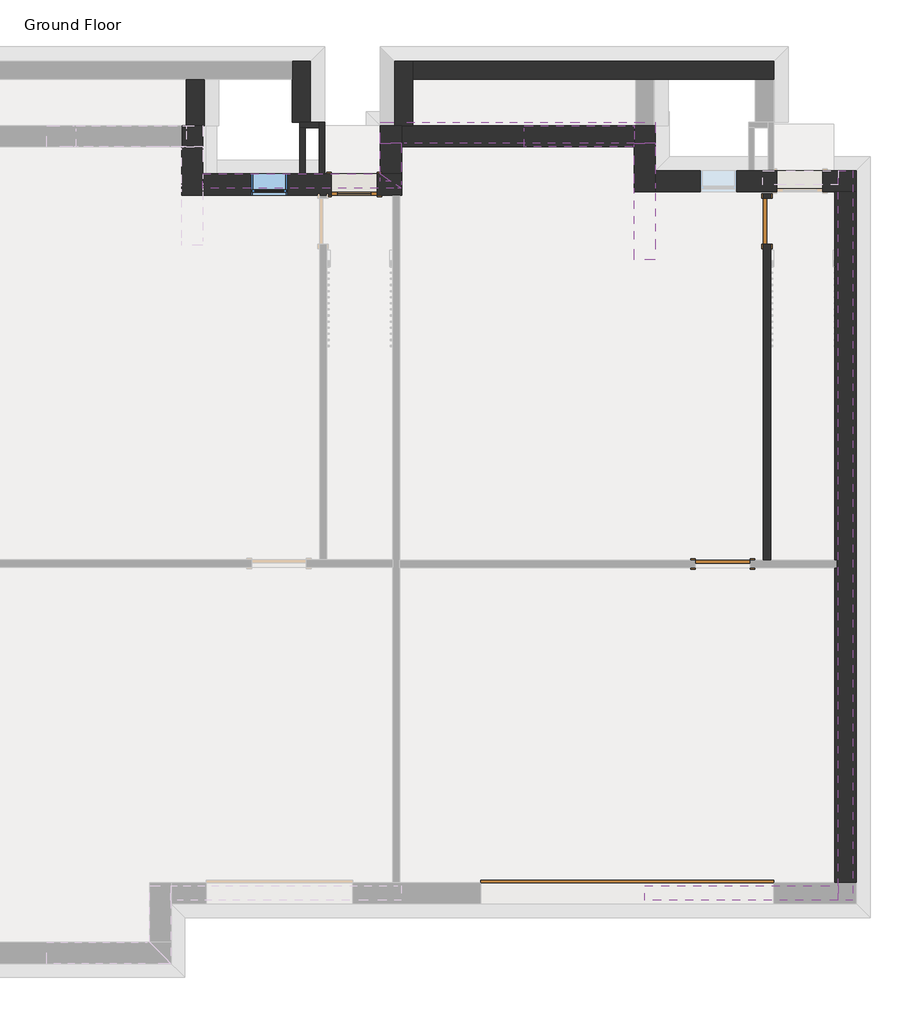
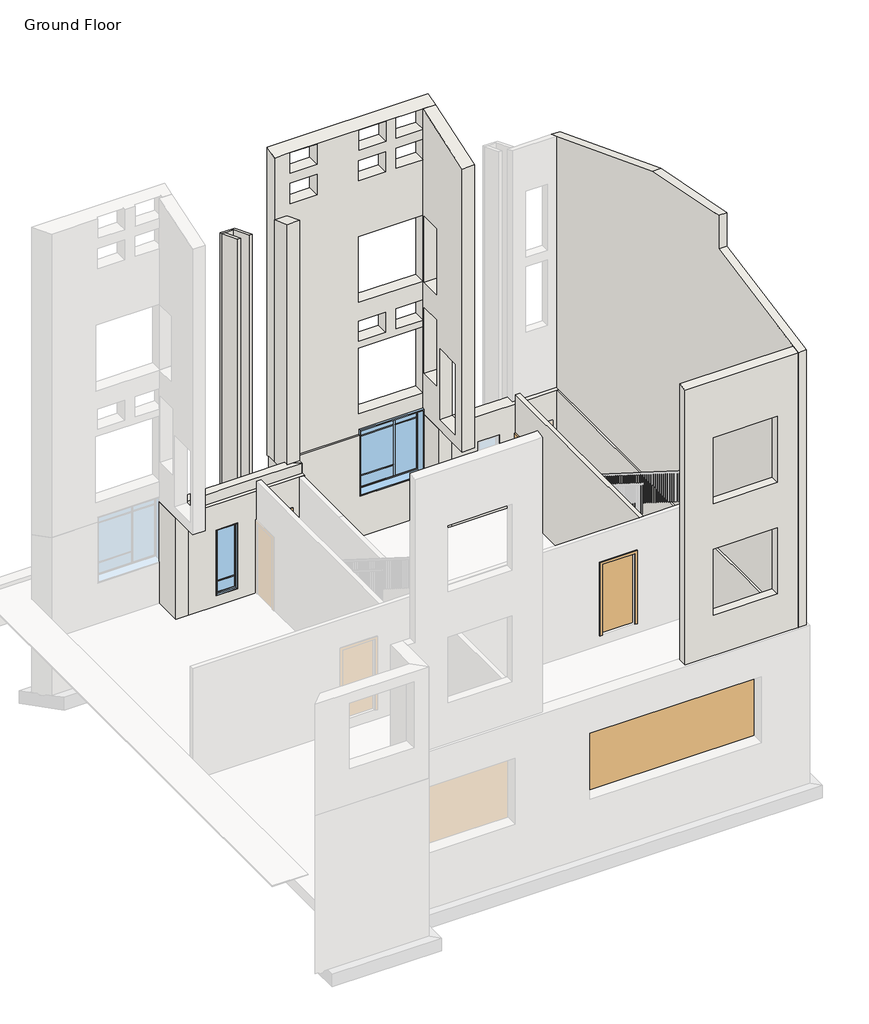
# One storey, part 2 of 3: 21 walls, 4 doors, 2 windows.
"""IFC4 building model written with IfcOpenShell, lengths in millimetres."""

from ifc_helpers import new_model, si_unit, frame, origin, place, context, project, spatial, polyline, outline, extrude, faceted_brep, transform, mapped, element, save
from components import door_2ca4f690, door_f8acb57e, door_88503111, door_c5ae8584, condo_apartment_window2_condo_apartment_window2_ac6c58d4, condo_apartment_window3_condo_apartment_window3_d8555c09

model = new_model("IFC4")

# Units and contexts
model_context = context("Model", 3, world=origin())
ifc_project = project(units=[si_unit("LENGTHUNIT", "METRE", prefix="MILLI")], contexts=[model_context])

# Site, building, storey
site = spatial("IfcSite", under=ifc_project)
building = spatial("IfcBuilding", under=site)
storey = spatial("IfcBuildingStorey", under=building, Name="Ground Floor", Elevation=-3352.8)

# Doors
placement = place(None, origin())
door_shape = door_2ca4f690(model_context)
element("IfcDoor", 1, ObjectType="Overhead-Sectional : 16' X 6'-6\"", at=placement, inside=storey, context=model_context, shape_type="MappedRepresentation", body=[
    mapped(door_shape, transform((31.9002661, 46241.9255538, -3352.8), x_axis=(1.0, 0.0, 0.0), y_axis=(0.0, 1.0, 0.0), z_axis=(0.0, 0.0, 1.0))),
])
door_2_shape = door_f8acb57e(model_context)
element("IfcDoor", 2, ObjectType="Single-Flush : 30\" x 84\"", at=placement, inside=storey, context=model_context, shape_type="MappedRepresentation", body=[
    mapped(door_2_shape, transform((2361.5355231, 57427.3989967, -3352.8), x_axis=(0.0, 1.0, 0.0), y_axis=(-1.0, 0.0, 0.0), z_axis=(0.0, 0.0, 1.0))),
])
door_3_shape = door_88503111(model_context)
element("IfcDoor", 3, ObjectType="Single-Flush : 36\" x 84\"", at=placement, inside=storey, context=model_context, shape_type="MappedRepresentation", body=[
    mapped(door_3_shape, transform((1625.2985514, 51725.3583856, -3046.4125), x_axis=(1.0, 0.0, 0.0), y_axis=(0.0, 1.0, 0.0), z_axis=(0.0, 0.0, 1.0))),
])
door_4_shape = door_c5ae8584(model_context)
element("IfcDoor", 4, ObjectType="Single-Glass 1 : 30\" x 84\"", at=placement, inside=storey, context=model_context, shape_type="MappedRepresentation", body=[
    mapped(door_4_shape, transform((-4512.7497339, 58036.9989967, -3352.8), x_axis=(1.0, 0.0, 0.0), y_axis=(0.0, 1.0, 0.0), z_axis=(0.0, 0.0, 1.0))),
])

# Walls
element("IfcWall", 5, ObjectType="Exterior - Brick - Gray", at=placement, inside=storey, context=model_context, shape_type="Brep", body=[
    faceted_brep([(-5004.3411158, 58214.7989967, -3352.8), (-5004.3411158, 59074.111508, -3352.8), (-5004.3411158, 59074.111508, 6846.4925469), (-5004.3411158, 58214.7989967, 7177.3038799), (-5093.2411158, 58214.7989967, -3352.8), (-5093.2411158, 58214.7989967, 7177.3038799), (-5093.2411158, 58985.211508, 6880.7165657), (-5093.2411158, 59074.111508, 6846.4925469), (-5093.2411158, 59074.111508, -3352.8), (-5093.2411158, 58985.211508, -3352.8)], [[[0, 1, 2, 3]], [[4, 5, 6, 7, 8, 9]], [[1, 0, 4, 9, 8]], [[2, 1, 8, 7]], [[0, 3, 5, 4]], [[3, 2, 7, 6, 5]]]),
])
element("IfcWall", 6, ObjectType="Exterior - Brick - Gray", at=placement, inside=storey, context=model_context, shape_type="Brep", body=[
    faceted_brep([(-5093.2411158, 59074.111508, -3352.8), (-5417.0911158, 59074.111508, -3352.8), (-5417.0911158, 59074.111508, 6846.4925469), (-5093.2411158, 59074.111508, 6846.4925469), (-5093.2411158, 58985.211508, -3352.8), (-5093.2411158, 58985.211508, 6880.7165657), (-5328.1911158, 58985.211508, 6880.7165657), (-5417.0911158, 58985.211508, 6880.7165657), (-5417.0911158, 58985.211508, -3352.8), (-5328.1911158, 58985.211508, -3352.8)], [[[0, 1, 2, 3]], [[4, 5, 6, 7, 8, 9]], [[1, 0, 4, 9, 8]], [[2, 1, 8, 7]], [[0, 3, 5, 4]], [[3, 2, 7, 6, 5]]]),
])
element("IfcWall", 7, ObjectType="Exterior - Brick - Gray", at=placement, inside=storey, context=model_context, shape_type="SweptSolid", body=[
    extrude(outline(polyline([(58985.211508, -3352.8), (58214.7989967, -3352.8), (58214.7989967, 7177.3038799), (58985.211508, 6880.7165657), (58985.211508, -3352.8)])), frame((-5417.0911158, 0.0, 0.0), z_axis=(1.0, 0.0, 0.0), x_axis=(0.0, 1.0, 0.0)), (0.0, 0.0, 1.0), 88.9),
])
element("IfcWall", 8, ObjectType="Exterior - Brick on Mtl. Stud", at=placement, inside=storey, context=model_context, shape_type="Brep", body=[
    faceted_brep([(-4079.3622339, 58723.449008, 8841.1995281), (-4079.3622339, 58723.449008, 7308.0940019), (-4079.3622339, 58723.449008, 6981.4878222), (-4079.3622339, 58723.449008, -304.8), (-3726.9372339, 58723.449008, -304.8), (-1681.9747339, 58723.449008, -304.8), (-1681.9747339, 58723.449008, -152.4), (146.8252661, 58723.449008, -152.4), (146.8252661, 58723.449008, -304.8), (499.2502661, 58723.449008, -304.8), (499.2502661, 58723.449008, 8841.1995281), (146.8252661, 58723.449008, 8841.1995281), (-3726.9372339, 58723.449008, 8841.1995281), (148.0377661, 58723.449008, 2286.0), (148.0377661, 58723.449008, 304.8), (-1680.7622339, 58723.449008, 304.8), (-1680.7622339, 58723.449008, 2286.0), (-918.7622339, 58723.449008, 7924.8), (-918.7622339, 58723.449008, 7315.2), (-1680.7622339, 58723.449008, 7315.2), (-1680.7622339, 58723.449008, 7924.8), (148.0377661, 58723.449008, 8839.2), (148.0377661, 58723.449008, 8229.6), (-613.9622339, 58723.449008, 8229.6), (-613.9622339, 58723.449008, 8839.2), (-2872.5622339, 58723.449008, 8839.2), (-2872.5622339, 58723.449008, 8229.6), (-3634.5622339, 58723.449008, 8229.6), (-3634.5622339, 58723.449008, 8839.2), (-2872.5622339, 58723.449008, 7924.8), (-2872.5622339, 58723.449008, 7315.2), (-3634.5622339, 58723.449008, 7315.2), (-3634.5622339, 58723.449008, 7924.8), (148.0377661, 58723.449008, 7924.8), (148.0377661, 58723.449008, 7315.2), (-613.9622339, 58723.449008, 7315.2), (-613.9622339, 58723.449008, 7924.8), (-904.3622339, 58723.449008, 8839.2), (-904.3622339, 58723.449008, 8229.6), (-1666.3622339, 58723.449008, 8229.6), (-1666.3622339, 58723.449008, 8839.2), (148.0377661, 58723.449008, 5638.8), (148.0377661, 58723.449008, 3657.6), (-1680.7622339, 58723.449008, 3657.6), (-1680.7622339, 58723.449008, 5638.8), (148.0377661, 58723.449008, 3098.8), (148.0377661, 58723.449008, 2489.2), (-613.9622339, 58723.449008, 2489.2), (-613.9622339, 58723.449008, 3098.8), (-918.7622339, 58723.449008, 3098.8), (-918.7622339, 58723.449008, 2489.2), (-1680.7622339, 58723.449008, 2489.2), (-1680.7622339, 58723.449008, 3098.8), (-4079.3622339, 59075.874008, -304.8), (-4079.3622339, 59075.874008, 8957.0833207), (499.2502661, 59075.874008, 8957.0833207), (499.2502661, 59075.874008, -304.8), (146.8252661, 59075.874008, -304.8), (146.8252661, 59075.874008, -152.4), (-1681.9747339, 59075.874008, -152.4), (-1681.9747339, 59075.874008, -304.8), (148.0377661, 59075.874008, 304.8), (148.0377661, 59075.874008, 2286.0), (-1680.7622339, 59075.874008, 2286.0), (-1680.7622339, 59075.874008, 304.8), (-918.7622339, 59075.874008, 7315.2), (-918.7622339, 59075.874008, 7924.8), (-1680.7622339, 59075.874008, 7924.8), (-1680.7622339, 59075.874008, 7315.2), (148.0377661, 59075.874008, 8229.6), (148.0377661, 59075.874008, 8839.2), (-613.9622339, 59075.874008, 8839.2), (-613.9622339, 59075.874008, 8229.6), (-2872.5622339, 59075.874008, 8229.6), (-2872.5622339, 59075.874008, 8839.2), (-3634.5622339, 59075.874008, 8839.2), (-3634.5622339, 59075.874008, 8229.6), (-2872.5622339, 59075.874008, 7315.2), (-2872.5622339, 59075.874008, 7924.8), (-3634.5622339, 59075.874008, 7924.8), (-3634.5622339, 59075.874008, 7315.2), (148.0377661, 59075.874008, 7315.2), (148.0377661, 59075.874008, 7924.8), (-613.9622339, 59075.874008, 7924.8), (-613.9622339, 59075.874008, 7315.2), (-904.3622339, 59075.874008, 8229.6), (-904.3622339, 59075.874008, 8839.2), (-1666.3622339, 59075.874008, 8839.2), (-1666.3622339, 59075.874008, 8229.6), (148.0377661, 59075.874008, 3657.6), (148.0377661, 59075.874008, 5638.8), (-1680.7622339, 59075.874008, 5638.8), (-1680.7622339, 59075.874008, 3657.6), (148.0377661, 59075.874008, 2489.2), (148.0377661, 59075.874008, 3098.8), (-613.9622339, 59075.874008, 3098.8), (-613.9622339, 59075.874008, 2489.2), (-918.7622339, 59075.874008, 2489.2), (-918.7622339, 59075.874008, 3098.8), (-1680.7622339, 59075.874008, 3098.8), (-1680.7622339, 59075.874008, 2489.2)], [[[0, 1, 2, 3, 4, 5, 6, 7, 8, 9, 10, 11, 12], [13, 14, 15, 16], [17, 18, 19, 20], [21, 22, 23, 24], [25, 26, 27, 28], [29, 30, 31, 32], [33, 34, 35, 36], [37, 38, 39, 40], [41, 42, 43, 44], [45, 46, 47, 48], [49, 50, 51, 52]], [[53, 54, 55, 56, 57, 58, 59, 60], [61, 62, 63, 64], [65, 66, 67, 68], [69, 70, 71, 72], [73, 74, 75, 76], [77, 78, 79, 80], [81, 82, 83, 84], [85, 86, 87, 88], [89, 90, 91, 92], [93, 94, 95, 96], [97, 98, 99, 100]], [[3, 53, 60, 5, 4]], [[56, 9, 8, 57]], [[3, 2, 1, 0, 54, 53]], [[10, 9, 56, 55]], [[0, 12, 11, 10, 55, 54]], [[13, 62, 61, 14]], [[14, 61, 64, 15]], [[15, 64, 63, 16]], [[62, 13, 16, 63]], [[18, 17, 66, 65]], [[19, 18, 65, 68]], [[20, 19, 68, 67]], [[17, 20, 67, 66]], [[21, 70, 69, 22]], [[22, 69, 72, 23]], [[23, 72, 71, 24]], [[70, 21, 24, 71]], [[25, 74, 73, 26]], [[26, 73, 76, 27]], [[27, 76, 75, 28]], [[74, 25, 28, 75]], [[30, 29, 78, 77]], [[31, 30, 77, 80]], [[32, 31, 80, 79]], [[29, 32, 79, 78]], [[33, 82, 81, 34]], [[34, 81, 84, 35]], [[35, 84, 83, 36]], [[82, 33, 36, 83]], [[37, 86, 85, 38]], [[38, 85, 88, 39]], [[39, 88, 87, 40]], [[86, 37, 40, 87]], [[41, 90, 89, 42]], [[42, 89, 92, 43]], [[43, 92, 91, 44]], [[90, 41, 44, 91]], [[45, 94, 93, 46]], [[46, 93, 96, 47]], [[47, 96, 95, 48]], [[94, 45, 48, 95]], [[50, 49, 98, 97]], [[51, 50, 97, 100]], [[52, 51, 100, 99]], [[49, 52, 99, 98]], [[7, 58, 57, 8]], [[59, 6, 5, 60]], [[58, 7, 6, 59]]]),
])
element("IfcWall", 9, ObjectType="Exterior - Brick on Mtl. Stud", at=placement, inside=storey, context=model_context, shape_type="Brep", body=[
    faceted_brep([(-4079.3622339, 58723.449008, -304.8), (-4079.3622339, 58214.7989967, -304.8), (-4079.3622339, 58214.7989967, 0.0), (-4079.3622339, 58094.1489967, 0.0), (-4079.3622339, 58094.1489967, 7223.7507625), (-4079.3622339, 58214.7989967, 7177.3038799), (-4079.3622339, 58723.449008, 6981.4878222), (-3726.9372339, 58723.449008, -304.8), (-3726.9372339, 58723.449008, 6981.4878222), (-3726.9372339, 58094.1489967, 7223.7507625), (-3726.9372339, 58094.1489967, 0.0), (-3726.9372339, 57973.4989967, 0.0), (-3726.9372339, 57973.4989967, -304.8), (-3903.1497339, 58094.1489967, 0.0), (-3850.7622339, 58094.1489967, 0.0), (-3850.7622339, 58094.1489967, 7223.7507625)], [[[0, 1, 2, 3, 4, 5, 6]], [[7, 8, 9, 10, 11, 12]], [[1, 0, 7, 12]], [[4, 3, 13, 14, 10, 9, 15]], [[10, 14, 13, 11]], [[2, 1, 12, 11, 13]], [[13, 3, 2]], [[0, 6, 8, 7]], [[6, 5, 4, 15, 9, 8]]]),
])
element("IfcWall", 10, ObjectType="Exterior - Brick on Mtl. Stud", at=placement, inside=storey, context=model_context, shape_type="Brep", body=[
    faceted_brep([(146.8252661, 58723.449008, -304.8), (146.8252661, 56788.286508, -304.8), (146.8252661, 56788.286508, 8204.8826668), (146.8252661, 58723.449008, 8841.1995281), (146.8252661, 58723.449008, -152.4), (146.8252661, 58671.061508, 2895.6), (146.8252661, 58061.461508, 2895.6), (146.8252661, 58061.461508, 914.4), (146.8252661, 58671.061508, 914.4), (146.8252661, 57893.186508, 0.0), (146.8252661, 57893.186508, 2133.6), (146.8252661, 57131.186508, 2133.6), (146.8252661, 57131.186508, 0.0), (146.8252661, 58671.061508, 5638.8), (146.8252661, 58061.461508, 5638.8), (146.8252661, 58061.461508, 3657.6), (146.8252661, 58671.061508, 3657.6), (499.2502661, 58723.449008, -304.8), (499.2502661, 58723.449008, 8841.1995281), (499.2502661, 56788.286508, 8204.8826668), (499.2502661, 56788.286508, 7726.4713734), (499.2502661, 56788.286508, 0.0), (499.2502661, 56788.286508, -304.8), (499.2502661, 58671.061508, 2895.6), (499.2502661, 58671.061508, 914.4), (499.2502661, 58061.461508, 914.4), (499.2502661, 58061.461508, 2895.6), (499.2502661, 57893.186508, 0.0), (499.2502661, 57131.186508, 0.0), (499.2502661, 57131.186508, 2133.6), (499.2502661, 57893.186508, 2133.6), (499.2502661, 58671.061508, 5638.8), (499.2502661, 58671.061508, 3657.6), (499.2502661, 58061.461508, 3657.6), (499.2502661, 58061.461508, 5638.8)], [[[0, 1, 2, 3, 4], [5, 6, 7, 8], [9, 10, 11, 12], [13, 14, 15, 16]], [[17, 18, 19, 20, 21, 22], [23, 24, 25, 26], [27, 28, 29, 30], [31, 32, 33, 34]], [[1, 0, 17, 22]], [[2, 1, 22, 21, 20, 19]], [[0, 4, 3, 18, 17]], [[3, 2, 19, 18]], [[24, 23, 5, 8]], [[25, 24, 8, 7]], [[26, 25, 7, 6]], [[23, 26, 6, 5]], [[28, 27, 9, 12]], [[29, 28, 12, 11]], [[30, 29, 11, 10]], [[27, 30, 10, 9]], [[32, 31, 13, 16]], [[33, 32, 16, 15]], [[34, 33, 15, 14]], [[31, 34, 14, 13]]]),
])
element("IfcWall", 11, ObjectType="Exterior - Stucco", at=placement, inside=storey, context=model_context, shape_type="Brep", body=[
    faceted_brep([(-4079.3622339, 58214.7989967, -304.8), (-7033.8372339, 58214.7989967, -304.8), (-7033.8372339, 58214.7989967, 0.0), (-5175.7911158, 58214.7989967, 0.0), (-4079.3622339, 58214.7989967, 0.0), (-3726.9372339, 57973.4989967, -304.8), (-3726.9372339, 57973.4989967, 0.0), (-3850.7622339, 57973.4989967, 0.0), (-5175.7911158, 57973.4989967, 0.0), (-7033.8372339, 57973.4989967, 0.0), (-7033.8372339, 57973.4989967, -304.8)], [[[0, 1, 2, 3, 4]], [[5, 6, 7, 8, 9, 10]], [[1, 0, 5, 10]], [[4, 3, 2, 9, 8, 7, 6]], [[0, 4, 6, 5]], [[2, 1, 10, 9]]]),
])
element("IfcWall", 12, ObjectType="Exterior - Stucco", at=placement, inside=storey, context=model_context, shape_type="Brep", body=[
    faceted_brep([(3547.3980231, 58271.9489967, -304.8), (3547.3980231, 58030.6489967, -304.8), (3547.3980231, 46362.5755538, -304.8), (3547.3980231, 46121.2755538, -304.8), (3547.3980231, 46121.2755538, 7960.2821444), (3547.3980231, 46362.5755538, 8006.2042381), (3547.3980231, 50037.586508, 8705.6), (3547.3980231, 50037.586508, 9713.3498366), (3547.3980231, 50278.886508, 9665.7212145), (3547.3980231, 53299.7913201, 9069.4446552), (3547.3980231, 58030.6489967, 7248.1964902), (3547.3980231, 58271.9489967, 7155.302725), (3788.6980231, 58271.9489967, -304.8), (3788.6980231, 58271.9489967, 7155.302725), (3788.6980231, 53299.7913201, 9069.4446552), (3788.6980231, 50037.586508, 9713.3498366), (3788.6980231, 50037.586508, 8705.6), (3788.6980231, 46121.2755538, 7960.2821444), (3788.6980231, 46121.2755538, -304.8)], [[[0, 1, 2, 3, 4, 5, 6, 7, 8, 9, 10, 11]], [[12, 13, 14, 15, 16, 17, 18]], [[3, 2, 1, 0, 12, 18]], [[4, 3, 18, 17]], [[0, 11, 13, 12]], [[15, 7, 6, 16]], [[6, 5, 4, 17, 16]], [[11, 10, 9, 14, 13]], [[9, 8, 7, 15, 14]]]),
])
element("IfcWall", 13, ObjectType="Exterior - Stucco", at=placement, inside=storey, context=model_context, shape_type="Brep", body=[
    faceted_brep([(3547.3980231, 46362.5755538, -304.8), (327.0002661, 46362.5755538, -304.8), (327.0002661, 46362.5755538, 8006.2042381), (3547.3980231, 46362.5755538, 8006.2042381), (1130.1480231, 46362.5755538, 2895.6), (1130.1480231, 46362.5755538, 914.4), (2958.9480231, 46362.5755538, 914.4), (2958.9480231, 46362.5755538, 2895.6), (1130.1480231, 46362.5755538, 6248.4), (1130.1480231, 46362.5755538, 4267.2), (2958.9480231, 46362.5755538, 4267.2), (2958.9480231, 46362.5755538, 6248.4), (327.0002661, 46121.2755538, -304.8), (3547.3980231, 46121.2755538, -304.8), (3547.3980231, 46121.2755538, 7960.2821444), (327.0002661, 46121.2755538, 7960.2821444), (1130.1480231, 46121.2755538, 914.4), (1130.1480231, 46121.2755538, 2895.6), (2958.9480231, 46121.2755538, 2895.6), (2958.9480231, 46121.2755538, 914.4), (1130.1480231, 46121.2755538, 4267.2), (1130.1480231, 46121.2755538, 6248.4), (2958.9480231, 46121.2755538, 6248.4), (2958.9480231, 46121.2755538, 4267.2)], [[[0, 1, 2, 3], [4, 5, 6, 7], [8, 9, 10, 11]], [[12, 13, 14, 15], [16, 17, 18, 19], [20, 21, 22, 23]], [[1, 0, 13, 12]], [[0, 3, 14, 13]], [[2, 1, 12, 15]], [[3, 2, 15, 14]], [[4, 17, 16, 5]], [[5, 16, 19, 6]], [[6, 19, 18, 7]], [[17, 4, 7, 18]], [[8, 21, 20, 9]], [[9, 20, 23, 10]], [[10, 23, 22, 11]], [[21, 8, 11, 22]]]),
])
element("IfcWall", 14, ObjectType="Foundation - 12\" Concrete", at=placement, inside=storey, context=model_context, shape_type="SweptSolid", body=[
    extrude(outline(polyline([(-304.8, 3845.8480231), (-304.8, 3490.2480231), (-5054.6, 3490.2480231), (-5054.6, 3591.8480231), (-5095.0111525, 3632.2591756), (-5095.0111525, 3703.8368706), (-5054.6, 3744.2480231), (-5054.6, 3845.8480231), (-304.8, 3845.8480231)])), frame((0.0, 46419.7255538, 0.0), z_axis=(0.0, 1.0, 0.0), x_axis=(0.0, 0.0, 1.0)), (0.0, 0.0, 1.0), 11496.6234429),
])
element("IfcWall", 15, ObjectType="Foundation - 12\" Concrete", at=placement, inside=storey, context=model_context, shape_type="Brep", body=[
    faceted_brep([(-7387.8497339, 59018.349008, -304.8), (-7387.8497339, 59019.936508, -304.8), (-7387.8497339, 59019.936508, -2133.6), (-7387.8497339, 59019.936508, -5054.6), (-7387.8497339, 58918.336508, -5054.6), (-7387.8497339, 58877.9253554, -5095.0111525), (-7387.8497339, 58806.3476605, -5095.0111525), (-7387.8497339, 58765.936508, -5054.6), (-7387.8497339, 58664.336508, -5054.6), (-7387.8497339, 58113.1989967, -5054.6), (-7387.8497339, 58072.7878442, -5095.0111525), (-7387.8497339, 58036.9989967, -5095.0111525), (-7387.8497339, 58001.2101493, -5095.0111525), (-7387.8497339, 57960.7989967, -5054.6), (-7387.8497339, 57859.1989967, -5054.6), (-7387.8497339, 57859.1989967, -304.8), (-7387.8497339, 58665.924008, -304.8), (-7387.8497339, 58665.924008, -2133.6), (-7387.8497339, 59018.349008, -2133.6), (-7032.2497339, 59019.936508, -304.8), (-7032.2497339, 58214.7989967, -304.8), (-7032.2497339, 57859.1989967, -304.8), (-7032.2497339, 57859.1989967, -5054.6), (-7032.2497339, 57960.7989967, -5054.6), (-7032.2497339, 58001.2101493, -5095.0111525), (-7032.2497339, 58036.9989967, -5095.0111525), (-7032.2497339, 58072.7878442, -5095.0111525), (-7032.2497339, 58113.1989967, -5054.6), (-7032.2497339, 58214.7989967, -5054.6), (-7032.2497339, 59019.936508, -5054.6), (-7311.0997339, 59018.349008, -304.8), (-7311.0997339, 58665.924008, -304.8), (-7311.0997339, 59018.349008, -2133.6), (-7311.0997339, 58665.924008, -2133.6), (-7286.2497339, 58765.936508, -5054.6), (-7286.2497339, 58443.3989967, -5054.6), (-7133.8497339, 58443.3989967, -5054.6), (-7133.8497339, 58918.336508, -5054.6), (-7245.8385813, 58806.3476605, -5095.0111525), (-7174.2608864, 58877.9253554, -5095.0111525), (-7174.2608864, 58443.3989967, -5095.0111525), (-7245.8385813, 58443.3989967, -5095.0111525)], [[[0, 1, 2, 3, 4, 5, 6, 7, 8, 9, 10, 11, 12, 13, 14, 15, 16, 17, 18]], [[19, 20, 21, 22, 23, 24, 25, 26, 27, 28, 29]], [[21, 20, 19, 1, 0, 30, 31, 16, 15]], [[1, 19, 29, 3, 2]], [[21, 15, 14, 22]], [[18, 32, 30, 0]], [[31, 33, 17, 16]], [[32, 33, 31, 30]], [[33, 32, 18, 17]], [[7, 34, 35, 36, 37, 4, 3, 29, 28, 27, 9, 8]], [[38, 34, 7, 6]], [[5, 39, 40, 41, 38, 6]], [[37, 39, 5, 4]], [[34, 38, 41, 35]], [[39, 37, 36, 40]], [[13, 23, 22, 14]], [[23, 13, 12, 24]], [[24, 12, 11, 25]], [[25, 11, 10, 26]], [[26, 10, 9, 27]], [[36, 35, 41, 40]]]),
])
element("IfcWall", 16, ObjectType="Foundation - 12\" Concrete", at=placement, inside=storey, context=model_context, shape_type="Brep", body=[
    faceted_brep([(-3725.3497339, 59019.936508, -304.8), (-3725.3497339, 58664.336508, -304.8), (-3725.3497339, 58214.7989967, -304.8), (-3725.3497339, 58214.7989967, -5054.6), (-3725.3497339, 58664.336508, -5054.6), (-3725.3497339, 58765.936508, -5054.6), (-3725.3497339, 58806.3476605, -5095.0111525), (-3725.3497339, 58877.9253554, -5095.0111525), (-3725.3497339, 58918.336508, -5054.6), (-3725.3497339, 59019.936508, -5054.6), (-4080.9497339, 58214.7989967, -304.8), (-4080.9497339, 59019.936508, -304.8), (-4080.9497339, 59019.936508, -5054.6), (-4080.9497339, 58214.7989967, -5054.6), (-3979.3497339, 58214.7989967, -5054.6), (-3938.9385813, 58214.7989967, -5095.0111525), (-3867.3608864, 58214.7989967, -5095.0111525), (-3826.9497339, 58214.7989967, -5054.6), (-3826.9497339, 58765.936508, -5054.6), (-3938.9385813, 58877.9253554, -5095.0111525), (-3867.3608864, 58806.3476605, -5095.0111525), (-3979.3497339, 58918.336508, -5054.6)], [[[0, 1, 2, 3, 4, 5, 6, 7, 8, 9]], [[10, 11, 12, 13]], [[2, 1, 0, 11, 10]], [[11, 0, 9, 12]], [[2, 10, 13, 14, 15, 16, 17, 3]], [[17, 18, 5, 4, 3]], [[15, 19, 7, 6, 20, 16]], [[8, 21, 14, 13, 12, 9]], [[20, 18, 17, 16]], [[21, 19, 15, 14]], [[18, 20, 6, 5]], [[19, 21, 8, 7]]]),
])
element("IfcWall", 17, ObjectType="Foundation - 12\" Concrete", at=placement, inside=storey, context=model_context, shape_type="Brep", body=[
    faceted_brep([(-1681.9747339, 58664.336508, -304.8), (-3725.3497339, 58664.336508, -304.8), (-3725.3497339, 58664.336508, -5054.6), (145.2377661, 58664.336508, -5054.6), (145.2377661, 58664.336508, -2133.6), (-1681.9747339, 58664.336508, -2133.6), (-3725.3497339, 59019.936508, -304.8), (-1681.9747339, 59019.936508, -304.8), (-1681.9747339, 59019.936508, -2133.6), (145.2377661, 59019.936508, -2133.6), (145.2377661, 59019.936508, -5054.6), (-3725.3497339, 59019.936508, -5054.6), (-3725.3497339, 58918.336508, -5054.6), (-3725.3497339, 58877.9253554, -5095.0111525), (-3725.3497339, 58806.3476605, -5095.0111525), (-3725.3497339, 58765.936508, -5054.6), (145.2377661, 58765.936508, -5054.6), (145.2377661, 58806.3476605, -5095.0111525), (145.2377661, 58877.9253554, -5095.0111525), (145.2377661, 58918.336508, -5054.6)], [[[0, 1, 2, 3, 4, 5]], [[6, 7, 8, 9, 10, 11]], [[6, 1, 0, 7]], [[1, 6, 11, 12, 13, 14, 15, 2]], [[9, 4, 3, 16, 17, 18, 19, 10]], [[8, 5, 4, 9]], [[5, 8, 7, 0]], [[15, 16, 3, 2]], [[13, 18, 17, 14]], [[19, 12, 11, 10]], [[16, 15, 14, 17]], [[18, 13, 12, 19]]]),
])
element("IfcWall", 18, ObjectType="Foundation - 12\" Concrete", at=placement, inside=storey, context=model_context, shape_type="Brep", body=[
    faceted_brep([(145.2377661, 57916.3489967, -304.8), (145.2377661, 58664.336508, -304.8), (145.2377661, 58664.336508, -2133.6), (145.2377661, 59019.936508, -2133.6), (145.2377661, 59019.936508, -5054.6), (145.2377661, 58918.336508, -5054.6), (145.2377661, 58877.9253554, -5095.0111525), (145.2377661, 58806.3476605, -5095.0111525), (145.2377661, 58765.936508, -5054.6), (145.2377661, 58664.336508, -5054.6), (145.2377661, 57916.3489967, -5054.6), (500.8377661, 59019.936508, -304.8), (500.8377661, 58271.9489967, -304.8), (500.8377661, 57916.3489967, -304.8), (500.8377661, 57916.3489967, -5054.6), (500.8377661, 58017.9489967, -5054.6), (500.8377661, 58058.3601493, -5095.0111525), (500.8377661, 58129.9378442, -5095.0111525), (500.8377661, 58170.3489967, -5054.6), (500.8377661, 58271.9489967, -5054.6), (500.8377661, 59019.936508, -5054.6), (146.8252661, 59019.936508, -304.8), (146.8252661, 58664.336508, -304.8), (146.8252661, 59019.936508, -2133.6), (146.8252661, 58664.336508, -2133.6), (246.8377661, 58765.936508, -5054.6), (246.8377661, 58017.9489967, -5054.6), (287.2489187, 58806.3476605, -5095.0111525), (287.2489187, 58058.3601493, -5095.0111525), (358.8266136, 58877.9253554, -5095.0111525), (358.8266136, 58129.9378442, -5095.0111525), (399.2377661, 58918.336508, -5054.6), (399.2377661, 58170.3489967, -5054.6)], [[[0, 1, 2, 3, 4, 5, 6, 7, 8, 9, 10]], [[11, 12, 13, 14, 15, 16, 17, 18, 19, 20]], [[13, 12, 11, 21, 22, 1, 0]], [[21, 11, 20, 4, 3, 23]], [[13, 0, 10, 14]], [[22, 24, 2, 1]], [[23, 24, 22, 21]], [[24, 23, 3, 2]], [[25, 26, 15, 14, 10, 9, 8]], [[27, 25, 8, 7]], [[28, 27, 7, 6, 29, 30, 17, 16]], [[31, 29, 6, 5]], [[32, 31, 5, 4, 20, 19, 18]], [[26, 25, 27, 28]], [[30, 29, 31, 32]], [[26, 28, 16, 15]], [[30, 32, 18, 17]]]),
])
element("IfcWall", 19, ObjectType="Foundation - 12\" Concrete", at=placement, inside=storey, context=model_context, shape_type="Brep", body=[
    faceted_brep([(3845.8480231, 57916.3489967, -304.8), (3490.2480231, 57916.3489967, -304.8), (500.8377661, 57916.3489967, -304.8), (500.8377661, 57916.3489967, -5054.6), (3490.2480231, 57916.3489967, -5054.6), (3591.8480231, 57916.3489967, -5054.6), (3632.2591756, 57916.3489967, -5095.0111525), (3703.8368706, 57916.3489967, -5095.0111525), (3744.2480231, 57916.3489967, -5054.6), (3845.8480231, 57916.3489967, -5054.6), (3287.0480231, 57916.3489967, -3352.8), (2525.0480231, 57916.3489967, -3352.8), (2525.0480231, 57916.3489967, -1219.2), (3287.0480231, 57916.3489967, -1219.2), (1856.3088842, 57916.3489967, -3048.0), (1246.7088842, 57916.3489967, -3048.0), (1246.7088842, 57916.3489967, -1066.8), (1856.3088842, 57916.3489967, -1066.8), (500.8377661, 58271.9489967, -304.8), (3845.8480231, 58271.9489967, -304.8), (3845.8480231, 58271.9489967, -5054.6), (500.8377661, 58271.9489967, -5054.6), (2525.0480231, 58271.9489967, -3352.8), (3287.0480231, 58271.9489967, -3352.8), (3287.0480231, 58271.9489967, -1219.2), (2525.0480231, 58271.9489967, -1219.2), (1246.7088842, 58271.9489967, -3048.0), (1856.3088842, 58271.9489967, -3048.0), (1856.3088842, 58271.9489967, -1066.8), (1246.7088842, 58271.9489967, -1066.8), (500.8377661, 58170.3489967, -5054.6), (500.8377661, 58129.9378442, -5095.0111525), (500.8377661, 58058.3601493, -5095.0111525), (500.8377661, 58017.9489967, -5054.6), (3591.8480231, 58017.9489967, -5054.6), (3703.8368706, 58129.9378442, -5095.0111525), (3632.2591756, 58058.3601493, -5095.0111525), (3744.2480231, 58170.3489967, -5054.6)], [[[0, 1, 2, 3, 4, 5, 6, 7, 8, 9], [10, 11, 12, 13], [14, 15, 16, 17]], [[18, 19, 20, 21], [22, 23, 24, 25], [26, 27, 28, 29]], [[2, 1, 0, 19, 18]], [[19, 0, 9, 20]], [[2, 18, 21, 30, 31, 32, 33, 3]], [[11, 10, 23, 22]], [[12, 11, 22, 25]], [[13, 12, 25, 24]], [[10, 13, 24, 23]], [[15, 26, 29, 16]], [[26, 15, 14, 27]], [[27, 14, 17, 28]], [[28, 17, 16, 29]], [[33, 34, 5, 4, 3]], [[31, 35, 7, 6, 36, 32]], [[8, 37, 30, 21, 20, 9]], [[36, 34, 33, 32]], [[37, 35, 31, 30]], [[34, 36, 6, 5]], [[35, 37, 8, 7]]]),
])
element("IfcWall", 20, ObjectType="Foundation - 12\" Concrete", at=placement, inside=storey, context=model_context, shape_type="Brep", body=[
    faceted_brep([(-3725.3497339, 57859.1989967, -304.8), (-7032.2497339, 57859.1989967, -304.8), (-7032.2497339, 57859.1989967, -5054.6), (-3725.3497339, 57859.1989967, -5054.6), (-4131.7497339, 57859.1989967, -3352.8), (-4893.7497339, 57859.1989967, -3352.8), (-4893.7497339, 57859.1989967, -1219.2), (-4131.7497339, 57859.1989967, -1219.2), (-6231.4786158, 57859.1989967, -3048.0), (-6231.4786158, 57859.1989967, -1066.8), (-5621.8786158, 57859.1989967, -1066.8), (-5621.8786158, 57859.1989967, -3048.0), (-7032.2497339, 58214.7989967, -304.8), (-4080.9497339, 58214.7989967, -304.8), (-3725.3497339, 58214.7989967, -304.8), (-3725.3497339, 58214.7989967, -5054.6), (-3826.9497339, 58214.7989967, -5054.6), (-3867.3608864, 58214.7989967, -5095.0111525), (-3938.9385813, 58214.7989967, -5095.0111525), (-3979.3497339, 58214.7989967, -5054.6), (-4080.9497339, 58214.7989967, -5054.6), (-7032.2497339, 58214.7989967, -5054.6), (-4893.7497339, 58214.7989967, -3352.8), (-4131.7497339, 58214.7989967, -3352.8), (-4131.7497339, 58214.7989967, -1219.2), (-4893.7497339, 58214.7989967, -1219.2), (-6231.4786158, 58214.7989967, -1066.8), (-6231.4786158, 58214.7989967, -3048.0), (-5621.8786158, 58214.7989967, -3048.0), (-5621.8786158, 58214.7989967, -1066.8), (-7032.2497339, 58113.1989967, -5054.6), (-7032.2497339, 58072.7878442, -5095.0111525), (-7032.2497339, 58001.2101493, -5095.0111525), (-7032.2497339, 57960.7989967, -5054.6), (-3826.9497339, 57960.7989967, -5054.6), (-3867.3608864, 58001.2101493, -5095.0111525), (-3938.9385813, 58072.7878442, -5095.0111525), (-3979.3497339, 58113.1989967, -5054.6)], [[[0, 1, 2, 3], [4, 5, 6, 7], [8, 9, 10, 11]], [[12, 13, 14, 15, 16, 17, 18, 19, 20, 21], [22, 23, 24, 25], [26, 27, 28, 29]], [[1, 0, 14, 13, 12]], [[14, 0, 3, 15]], [[1, 12, 21, 30, 31, 32, 33, 2]], [[23, 22, 5, 4]], [[24, 23, 4, 7]], [[25, 24, 7, 6]], [[22, 25, 6, 5]], [[27, 26, 9, 8]], [[28, 27, 8, 11]], [[29, 28, 11, 10]], [[26, 29, 10, 9]], [[33, 34, 16, 15, 3, 2]], [[35, 34, 33, 32]], [[31, 36, 18, 17, 35, 32]], [[37, 36, 31, 30]], [[19, 37, 30, 21, 20]], [[34, 35, 17, 16]], [[36, 37, 19, 18]]]),
])
element("IfcWall", 21, ObjectType="Interior - 4 7/8\" Partition (1-hr)", at=placement, inside=storey, context=model_context, shape_type="SweptSolid", body=[
    extrude(outline(polyline([(57884.5989967, 0.0), (57884.5989967, -3352.8), (57808.3989967, -3352.8), (57808.3989967, -1219.2), (57046.3989967, -1219.2), (57046.3989967, -3352.8), (51787.2708856, -3352.8), (51787.2708856, 0.0), (57884.5989967, 0.0)])), frame((2299.6230231, 0.0, 0.0), z_axis=(1.0, 0.0, 0.0), x_axis=(0.0, 1.0, 0.0)), (0.0, 0.0, 1.0), 123.825),
])
element("IfcWall", 22, ObjectType="Retaining - Stone", at=placement, inside=storey, context=model_context, shape_type="Brep", body=[
    faceted_brep([(-5546.1295887, 60098.749008, -3352.8), (-5546.1295887, 59793.949008, -3352.8), (-5546.1295887, 59074.111508, -3352.8), (-5546.1295887, 59074.111508, -2133.6), (-5546.1295887, 59793.949008, -2133.6), (-5546.1295887, 60098.749008, -2133.6), (-5241.3295887, 59074.111508, -3352.8), (-5241.3295887, 60098.749008, -3352.8), (-5241.3295887, 60098.749008, -2133.6), (-5241.3295887, 59074.111508, -2133.6)], [[[0, 1, 2, 3, 4, 5]], [[6, 7, 8, 9]], [[2, 1, 0, 7, 6]], [[3, 2, 6, 9]], [[5, 4, 3, 9, 8]], [[0, 5, 8, 7]]]),
])
element("IfcWall", 23, ObjectType="Retaining - Stone", at=placement, inside=storey, context=model_context, shape_type="Brep", body=[
    faceted_brep([(-3539.161261, 59019.936508, -3352.8), (-3539.161261, 59793.949008, -3352.8), (-3539.161261, 60098.749008, -3352.8), (-3539.161261, 60098.749008, -2133.6), (-3539.161261, 59793.949008, -2133.6), (-3539.161261, 59019.936508, -2133.6), (-3843.961261, 60098.749008, -3352.8), (-3843.961261, 59019.936508, -3352.8), (-3843.961261, 59019.936508, -2133.6), (-3843.961261, 60098.749008, -2133.6)], [[[0, 1, 2, 3, 4, 5]], [[6, 7, 8, 9]], [[2, 1, 0, 7, 6]], [[5, 4, 3, 9, 8]], [[0, 5, 8, 7]], [[3, 2, 6, 9]]]),
])
element("IfcWall", 24, ObjectType="Retaining - Stone", at=placement, inside=storey, context=model_context, shape_type="Brep", body=[
    faceted_brep([(-3539.161261, 59793.949008, -3352.8), (170.6377661, 59793.949008, -3352.8), (475.4377661, 59793.949008, -3352.8), (2166.7505599, 59793.949008, -3352.8), (2471.5505599, 59793.949008, -3352.8), (2471.5505599, 59793.949008, -2133.6), (2166.7505599, 59793.949008, -2133.6), (475.4377661, 59793.949008, -2133.6), (170.6377661, 59793.949008, -2133.6), (-3539.161261, 59793.949008, -2133.6), (2471.5505599, 60098.749008, -3352.8), (-3539.161261, 60098.749008, -3352.8), (-3539.161261, 60098.749008, -2133.6), (2471.5505599, 60098.749008, -2133.6)], [[[0, 1, 2, 3, 4, 5, 6, 7, 8, 9]], [[10, 11, 12, 13]], [[4, 3, 2, 1, 0, 11, 10]], [[9, 8, 7, 6, 5, 13, 12]], [[5, 4, 10, 13]], [[0, 9, 12, 11]]]),
])
element("IfcWall", 25, ObjectType="Retaining - Stone", at=placement, inside=storey, context=model_context, shape_type="SweptSolid", body=[
    extrude(outline(polyline([(-7311.6497339, 59019.936508), (-7311.6497339, 59793.949008), (-7006.8497339, 59793.949008), (-7006.8497339, 59019.936508), (-7311.6497339, 59019.936508)])), frame((0.0, 0.0, -3352.8), z_axis=(0.0, 0.0, 1.0), x_axis=(1.0, 0.0, 0.0)), (0.0, 0.0, 1.0), 1219.2),
])

# Windows
condo_apartment_window2_condo_apartment_window2_shape = condo_apartment_window2_condo_apartment_window2_ac6c58d4(model_context)
element("IfcWindow", 26, ObjectType="Condo - Apartment Window2 : Condo - Apartment Window2", at=placement, inside=storey, context=model_context, shape_type="MappedRepresentation", body=[
    mapped(condo_apartment_window2_condo_apartment_window2_shape, transform((-729.4747339, 58842.136508, -2730.5), x_axis=(1.0, 0.0, 0.0), y_axis=(0.0, 1.0, 0.0), z_axis=(0.0, 0.0, 1.0))),
])
condo_apartment_window3_condo_apartment_window3_shape = condo_apartment_window3_condo_apartment_window3_d8555c09(model_context)
element("IfcWindow", 27, ObjectType="Condo - Apartment Window3 : Condo - Apartment Window3", at=placement, inside=storey, context=model_context, shape_type="MappedRepresentation", body=[
    mapped(condo_apartment_window3_condo_apartment_window3_shape, transform((-5964.7786158, 58036.9989967, -3340.1), x_axis=(-1.0, 0.0, 0.0), y_axis=(0.0, -1.0, 0.0), z_axis=(0.0, 0.0, 1.0))),
])

save(model, "model.ifc")
